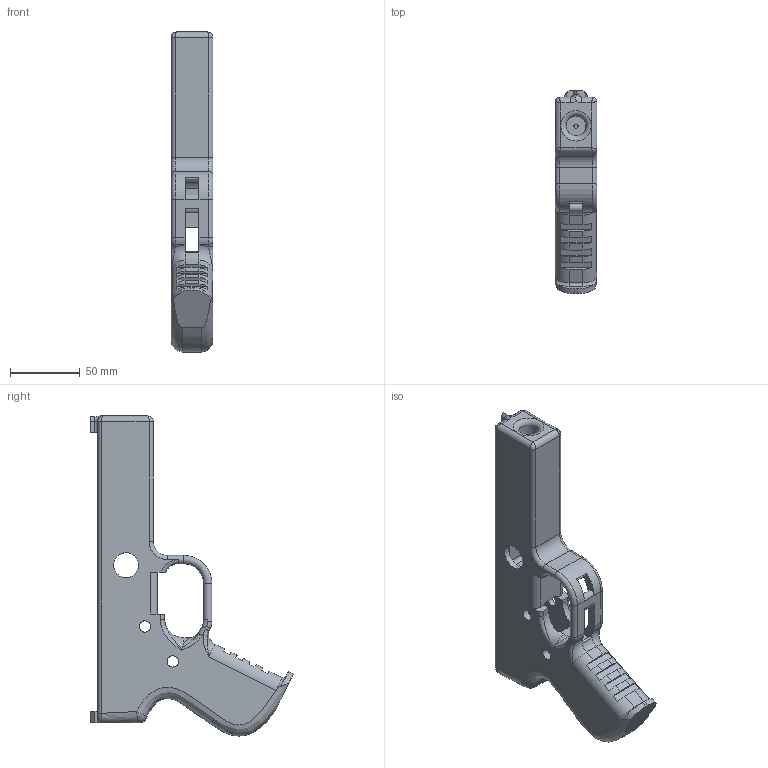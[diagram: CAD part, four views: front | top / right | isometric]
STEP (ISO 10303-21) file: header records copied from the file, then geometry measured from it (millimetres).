
FILE_DESCRIPTION(/* description */ (''),/* implementation_level */ '2;1');
FILE_NAME(/* name */ 'C:/Users/Owner/Desktop/K-CAD Songbird PM4 Centerfire/STEP/Centerfire Frames/Songbird PM4C Reg Frame UNDER 51 Cal ONLY.step',/* time_stamp */ '2020-12-06T00:34:58-05:00',/* author */ (''),/* organization */ (''),/* preprocessor_version */ 'ST-DEVELOPER v18.1',/* originating_system */ 'Autodesk Translation Framework v9.3.0.1241',/* authorisation */ '');
FILE_SCHEMA (('AUTOMOTIVE_DESIGN { 1 0 10303 214 3 1 1 }'));
Length unit declared in the file: millimetre
Products named in the file (1): Songbird PM4C Frame UNDER 51 Cal ONLY
Bounding box: 30 x 145.5 x 229.49 mm (x, y, z)
Volume: 227488.3 mm3; surface area: 70665.2 mm2
Topology: 1 solids, 1 shells, 285 faces, 775 edges, 478 vertices
Faces by surface type: plane 117, cylinder 106, torus 33, bspline 25, sphere 4
Full cylindrical faces by diameter (mm): 3 x1, 8.1 x4, 12 x3, 14.224 x1, 18 x1
Entity records: 11058 total; most frequent: CARTESIAN_POINT 3871, ORIENTED_EDGE 1534, DIRECTION 1499, EDGE_CURVE 767, AXIS2_PLACEMENT_3D 561, VERTEX_POINT 478, LINE 377, VECTOR 377
